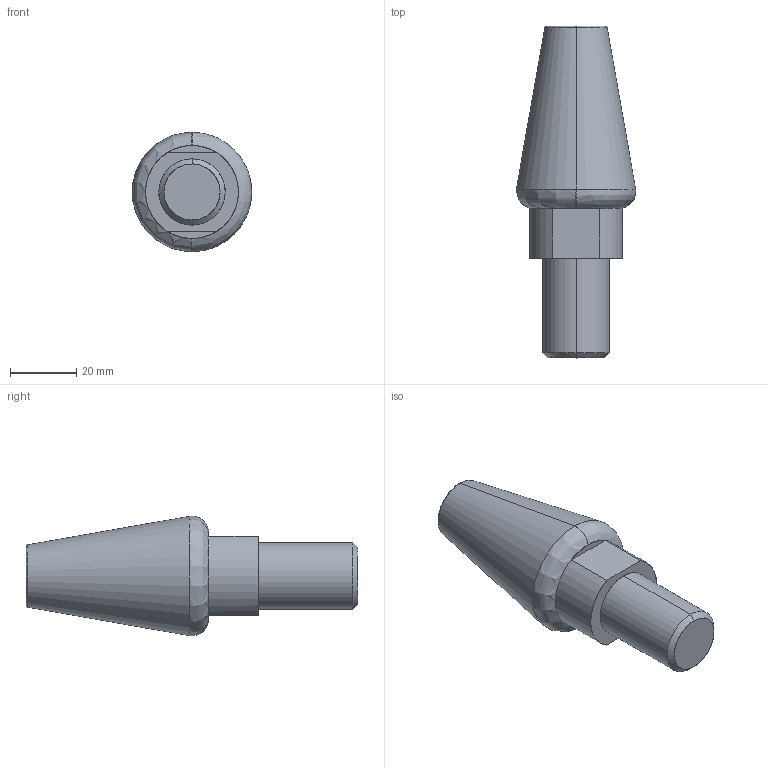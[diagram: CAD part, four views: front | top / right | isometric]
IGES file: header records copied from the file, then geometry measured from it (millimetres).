
Start section: START RECORD GO HERE.
Global section: file name: 384F-3_1.igs; native system: DASSAULT SYSTEMES CATIA V5 R20 - www.3ds.com; preprocessor: CATIA Version 5 Release 20 ; author: Utente; organization: NB04-ASUS; date: 20200409.082119; units: millimetre
Bounding box: 35.93 x 100 x 36.08 mm (x, y, z)
Surface area: 9353.4 mm2 (no closed solid volume)
Topology: 0 solids, 0 shells, 33 faces, 148 edges, 146 vertices
Faces by surface type: extrusion 19, revolution 14
